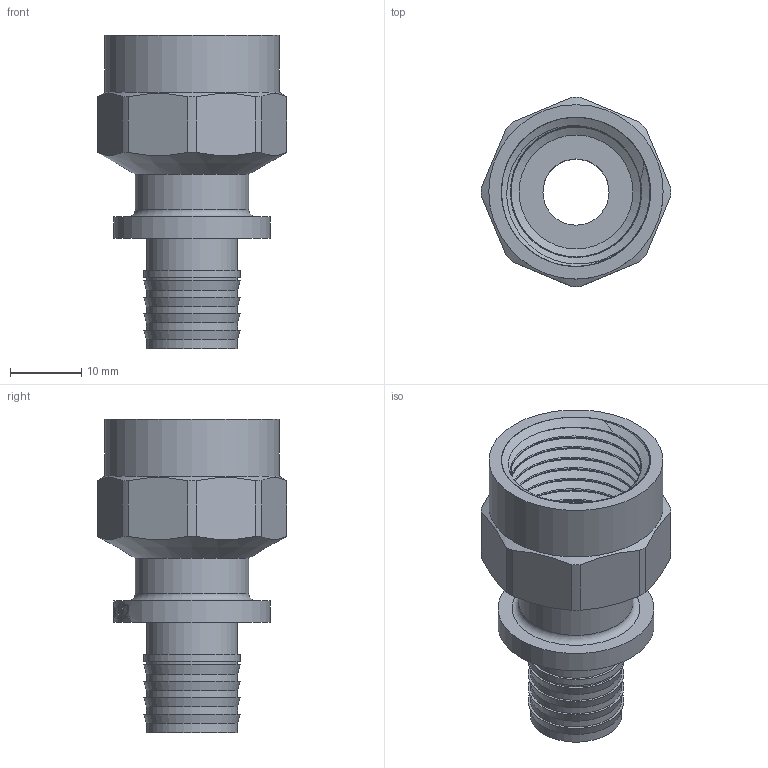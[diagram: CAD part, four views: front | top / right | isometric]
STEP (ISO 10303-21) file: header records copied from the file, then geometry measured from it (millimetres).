
FILE_DESCRIPTION(/* description */ (''),/* implementation_level */ '2;1');
FILE_NAME(/* name */ 'C:\Users\Doom\Desktop\Фадотех\Натяжка\FD-SFM21NEW 14.04.2020\FADO-SFM21NEW 14.04.2020.stp',/* time_stamp */ '2022-07-24T11:36:18+03:00',/* author */ ('Doom'),/* organization */ (''),/* preprocessor_version */ 'ST-DEVELOPER v18',/* originating_system */ 'Autodesk Inventor 2020',/* authorisation */ '');
FILE_SCHEMA (('AUTOMOTIVE_DESIGN { 1 0 10303 214 3 1 1 }'));
Length unit declared in the file: millimetre
Products named in the file (1): FADO-SFM21NEW 14.04.2020
Bounding box: 26.6 x 26.6 x 44 mm (x, y, z)
Volume: 6928.6 mm3; surface area: 8515.7 mm2
Topology: 2 solids, 2 shells, 172 faces, 475 edges, 324 vertices
Faces by surface type: plane 64, bspline 57, cylinder 41, cone 9, torus 1
Full cylindrical faces by diameter (mm): 9.3 x1, 12.8 x6, 13.5 x1, 16 x2, 18.26 x8, 20.95 x2, 22 x1, 24.5 x1
Entity records: 11201 total; most frequent: CARTESIAN_POINT 7091, ORIENTED_EDGE 946, DIRECTION 689, EDGE_CURVE 473, VERTEX_POINT 323, AXIS2_PLACEMENT_3D 255, EDGE_LOOP 194, LINE 179
